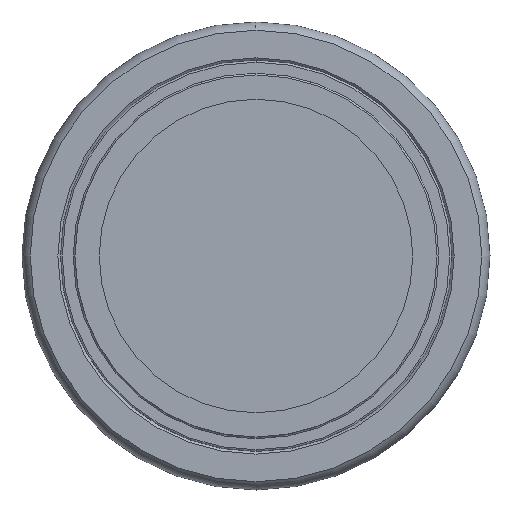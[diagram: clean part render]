
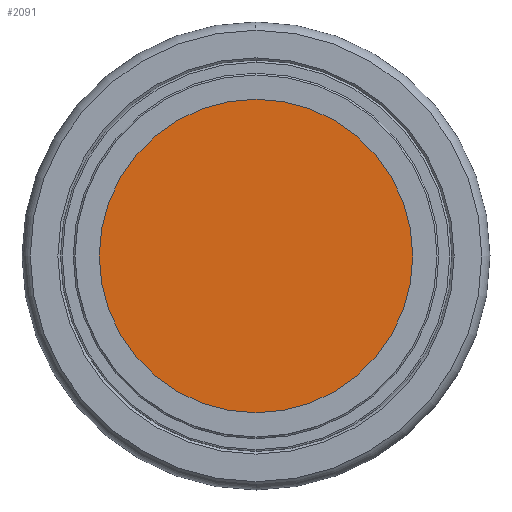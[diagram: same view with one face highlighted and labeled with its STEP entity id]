
A CAD part, left-side view. The second image highlights one B-rep face of the part: STEP entity #2091.
In plain terms, the highlighted planar face has unit normal (-1, 0, 0).
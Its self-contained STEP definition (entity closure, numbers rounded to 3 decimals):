
#899=CARTESIAN_POINT('',(-5.2,0.,-18.0));
#900=VERTEX_POINT('',#899);
#909=CARTESIAN_POINT('',(-5.2,0.,18.0));
#910=VERTEX_POINT('',#909);
#911=CARTESIAN_POINT('',(-5.2,0.,0.));
#912=DIRECTION('',(-1.0,0.0,0.0));
#913=DIRECTION('',(0.0,0.0,-1.0));
#914=AXIS2_PLACEMENT_3D('',#911,#912,#913);
#915=CIRCLE('',#914,18.0);
#916=EDGE_CURVE('',#910,#900,#915,.T.);
#2076=CARTESIAN_POINT('',(-5.2,0.,1.75));
#2077=DIRECTION('',(-1.0,0.0,0.0));
#2078=DIRECTION('',(0.0,0.0,1.0));
#2079=AXIS2_PLACEMENT_3D('',#2076,#2077,#2078);
#2080=PLANE('',#2079);
#2081=ORIENTED_EDGE('',*,*,#916,.T.);
#2082=CARTESIAN_POINT('',(-5.2,0.,0.));
#2083=DIRECTION('',(-1.0,0.0,0.0));
#2084=DIRECTION('',(0.0,0.0,-1.0));
#2085=AXIS2_PLACEMENT_3D('',#2082,#2083,#2084);
#2086=CIRCLE('',#2085,18.0);
#2087=EDGE_CURVE('',#900,#910,#2086,.T.);
#2088=ORIENTED_EDGE('',*,*,#2087,.T.);
#2089=EDGE_LOOP('',(#2081,#2088));
#2090=FACE_OUTER_BOUND('',#2089,.T.);
#2091=ADVANCED_FACE('',(#2090),#2080,.T.);
